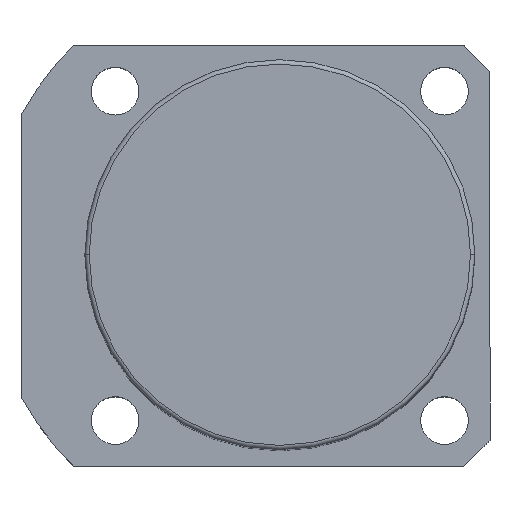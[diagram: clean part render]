
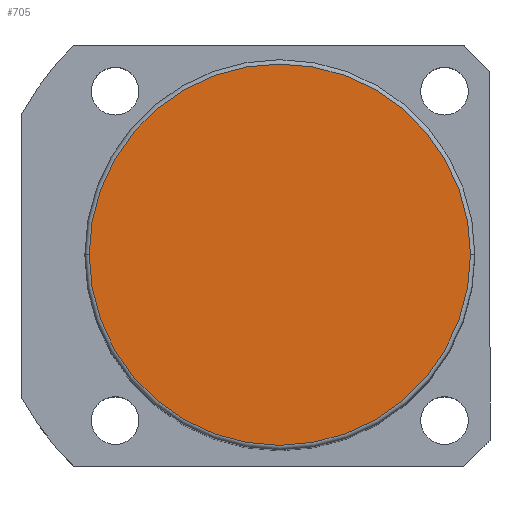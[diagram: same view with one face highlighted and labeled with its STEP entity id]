
A CAD part, top view. The second image highlights one B-rep face of the part: STEP entity #705.
In plain terms, the highlighted planar face has unit normal (0, 0, 1).
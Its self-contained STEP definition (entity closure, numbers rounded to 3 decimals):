
#100 = DIRECTION ( 'NONE',  ( 1., 0., 0. ) ) ;
#121 = DIRECTION ( 'NONE',  ( 0., 0., 1. ) ) ;
#254 = ORIENTED_EDGE ( 'NONE', *, *, #339, .T. ) ;
#339 = EDGE_CURVE ( 'NONE', #1488, #1205, #4893, .T. ) ;
#596 = FACE_OUTER_BOUND ( 'NONE', #1770, .T. ) ;
#705 = ADVANCED_FACE ( 'NONE', ( #596 ), #3396, .T. ) ;
#1033 = CARTESIAN_POINT ( 'NONE',  ( 0., 0., 171.5 ) ) ;
#1205 = VERTEX_POINT ( 'NONE', #3387 ) ;
#1206 = CARTESIAN_POINT ( 'NONE',  ( 0., 0., 171.5 ) ) ;
#1419 = DIRECTION ( 'NONE',  ( 1., 0., 0. ) ) ;
#1445 = DIRECTION ( 'NONE',  ( 0., 0., 1. ) ) ;
#1488 = VERTEX_POINT ( 'NONE', #5401 ) ;
#1490 = CARTESIAN_POINT ( 'NONE',  ( 0., 0., 171.5 ) ) ;
#1587 = DIRECTION ( 'NONE',  ( 1., 0., 0. ) ) ;
#1770 = EDGE_LOOP ( 'NONE', ( #254, #2227 ) ) ;
#2227 = ORIENTED_EDGE ( 'NONE', *, *, #2381, .T. ) ;
#2381 = EDGE_CURVE ( 'NONE', #1205, #1488, #5667, .T. ) ;
#3027 = AXIS2_PLACEMENT_3D ( 'NONE', #1206, #121, #100 ) ;
#3387 = CARTESIAN_POINT ( 'NONE',  ( -44., 0., 171.5 ) ) ;
#3396 = PLANE ( 'NONE',  #3027 ) ;
#3437 = AXIS2_PLACEMENT_3D ( 'NONE', #1033, #4867, #1587 ) ;
#4867 = DIRECTION ( 'NONE',  ( 0., 0., 1. ) ) ;
#4893 = CIRCLE ( 'NONE', #6979, 44. ) ;
#5401 = CARTESIAN_POINT ( 'NONE',  ( 44., 0., 171.5 ) ) ;
#5667 = CIRCLE ( 'NONE', #3437, 44. ) ;
#6979 = AXIS2_PLACEMENT_3D ( 'NONE', #1490, #1445, #1419 ) ;
